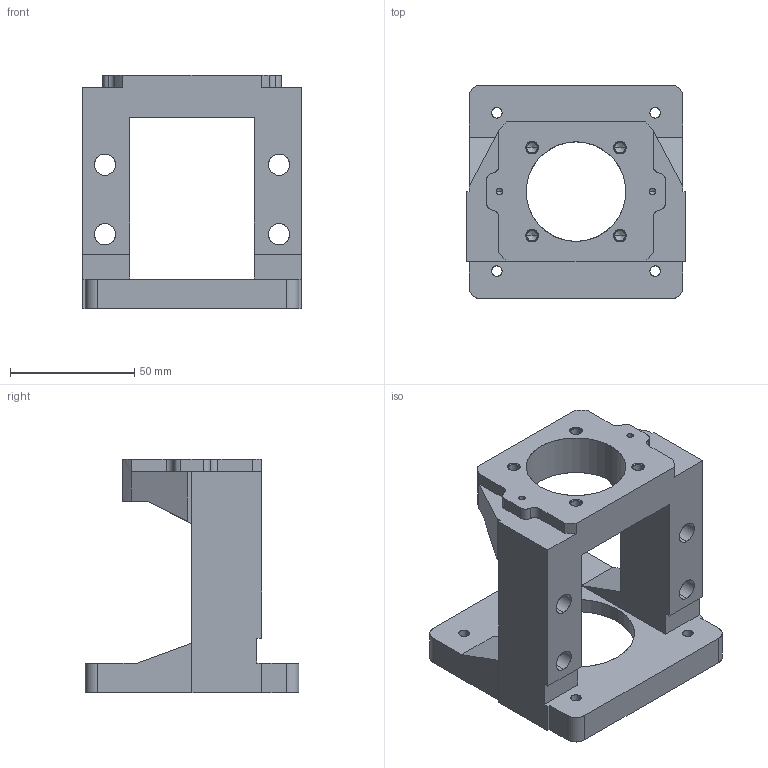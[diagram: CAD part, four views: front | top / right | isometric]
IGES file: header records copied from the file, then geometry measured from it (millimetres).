
Start section: SolidWorks IGES file using analytic representation for surfaces
Bounding box: 88 x 86 x 94 mm (x, y, z)
Surface area: 45068.1 mm2 (no closed solid volume)
Topology: 0 solids, 0 shells, 133 faces, 2136 edges, 2124 vertices
Faces by surface type: revolution 86, bspline 47
